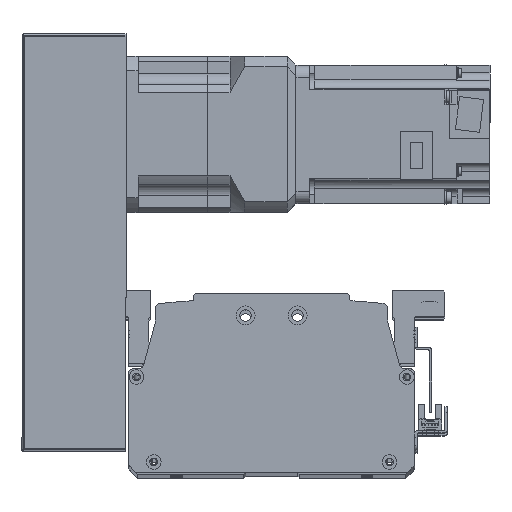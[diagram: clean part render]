
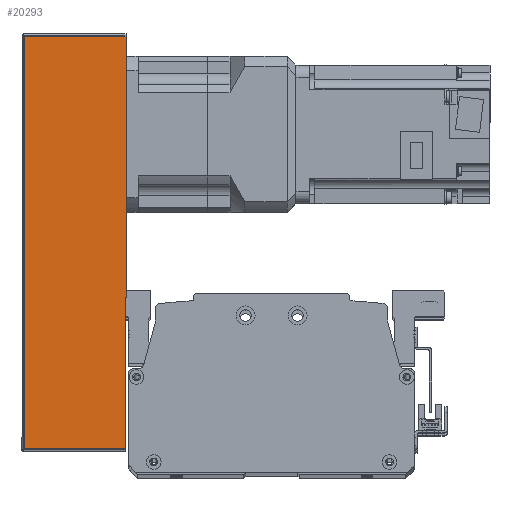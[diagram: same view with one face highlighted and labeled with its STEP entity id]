
A CAD part, top view. The second image highlights one B-rep face of the part: STEP entity #20293.
In plain terms, the highlighted planar face has unit normal (0, 0, 1) as drawn and (0, -1, 0) by its records, which use the part's own axes.
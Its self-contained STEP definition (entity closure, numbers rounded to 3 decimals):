
#605=PLANE('',#22155);
#1726=LINE('',#32635,#3386);
#1749=LINE('',#32722,#3409);
#1750=LINE('',#32730,#3410);
#1758=LINE('',#32756,#3418);
#3386=VECTOR('',#26423,10.);
#3409=VECTOR('',#26534,10.);
#3410=VECTOR('',#26545,10.);
#3418=VECTOR('',#26581,10.);
#5446=FACE_OUTER_BOUND('',#6918,.T.);
#6918=EDGE_LOOP('',(#16504,#16505,#16506,#16507));
#9826=VERTEX_POINT('',#32632);
#9827=VERTEX_POINT('',#32634);
#9847=VERTEX_POINT('',#32718);
#9848=VERTEX_POINT('',#32724);
#12205=EDGE_CURVE('',#9826,#9827,#1726,.T.);
#12250=EDGE_CURVE('',#9827,#9847,#1749,.T.);
#12254=EDGE_CURVE('',#9848,#9826,#1750,.T.);
#12268=EDGE_CURVE('',#9847,#9848,#1758,.T.);
#16504=ORIENTED_EDGE('',*,*,#12250,.F.);
#16505=ORIENTED_EDGE('',*,*,#12205,.F.);
#16506=ORIENTED_EDGE('',*,*,#12254,.F.);
#16507=ORIENTED_EDGE('',*,*,#12268,.F.);
#20293=ADVANCED_FACE('',(#5446),#605,.T.);
#22155=AXIS2_PLACEMENT_3D('',#32761,#26590,#26591);
#26423=DIRECTION('',(1.,0.,0.));
#26534=DIRECTION('',(0.,0.,-1.));
#26545=DIRECTION('',(0.,0.,1.));
#26581=DIRECTION('',(-1.,0.,0.));
#26590=DIRECTION('center_axis',(0.,-1.,0.));
#26591=DIRECTION('ref_axis',(1.,0.,0.));
#32632=CARTESIAN_POINT('',(-119.5,-51.,30.));
#32634=CARTESIAN_POINT('',(119.5,-51.,30.));
#32635=CARTESIAN_POINT('',(120.5,-51.,30.));
#32718=CARTESIAN_POINT('',(119.5,-51.,-29.));
#32722=CARTESIAN_POINT('',(119.5,-51.,0.));
#32724=CARTESIAN_POINT('',(-119.5,-51.,-29.));
#32730=CARTESIAN_POINT('',(-119.5,-51.,0.));
#32756=CARTESIAN_POINT('',(-60.25,-51.,-29.));
#32761=CARTESIAN_POINT('Origin',(-120.5,-51.,0.));
